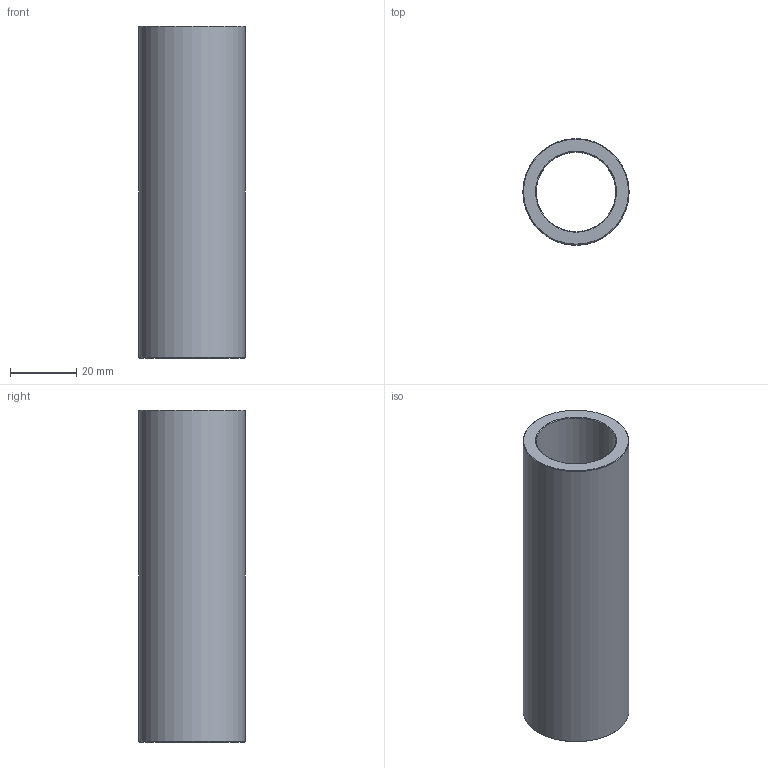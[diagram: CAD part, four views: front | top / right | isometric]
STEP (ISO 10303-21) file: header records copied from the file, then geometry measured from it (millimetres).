
FILE_DESCRIPTION(('STEP AP203'),'1');
FILE_NAME('C:/Users/Rodrigo/Desktop/GA4.024.100-1.step','2016-11-07T14:28:59',(' '),(' '),'Spatial InterOp 3D',' ',' ');
FILE_SCHEMA(('CONFIG_CONTROL_DESIGN'));
Length unit declared in the file: millimetre
Products named in the file (1): 1
Bounding box: 32 x 32 x 100 mm (x, y, z)
Volume: 35178.8 mm3; surface area: 18255.4 mm2
Topology: 1 solids, 1 shells, 8 faces, 14 edges, 8 vertices
Faces by surface type: cone 4, cylinder 2, plane 2
Full cylindrical faces by diameter (mm): 24 x1, 32 x1
Entity records: 212 total; most frequent: DIRECTION 34, CARTESIAN_POINT 25, AXIS2_PLACEMENT_3D 17, EDGE_LOOP 16, ORIENTED_EDGE 16, FACE_OUTER_BOUND 10, ADVANCED_FACE 8, EDGE_CURVE 8
